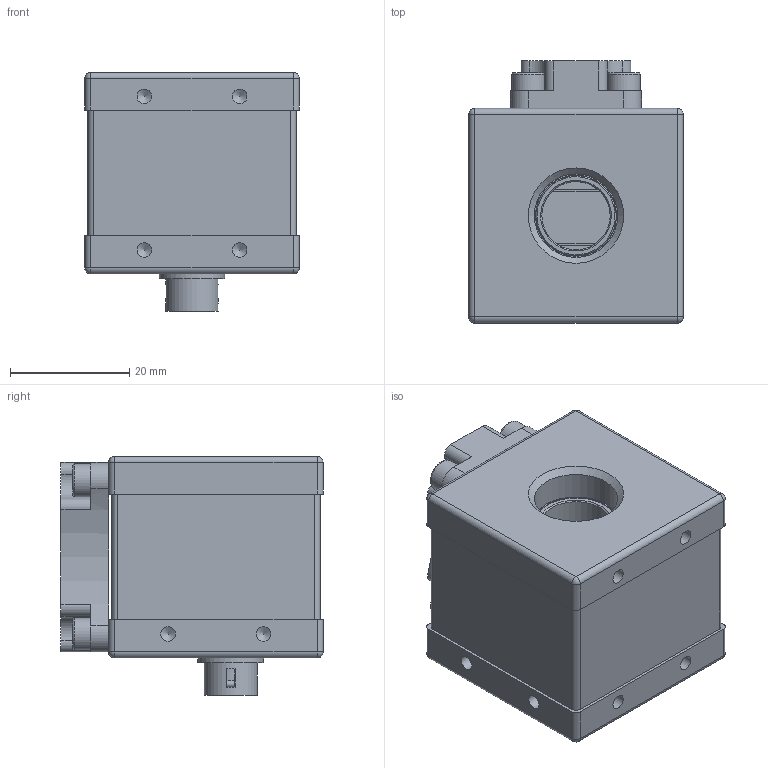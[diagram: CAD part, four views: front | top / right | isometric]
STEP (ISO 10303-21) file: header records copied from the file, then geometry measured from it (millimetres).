
FILE_DESCRIPTION(/* description */ (''),/* implementation_level */ '2;1');
FILE_NAME(/* name */ 'KSM_314-25-00-00-00-b_AFU-Kamera USB3 Vision.stp',/* time_stamp */ '2026-01-05T16:21:57+01:00',/* author */ ('Westermann'),/* organization */ ('TIS / Germany'),/* preprocessor_version */ 'ST-DEVELOPER v20',/* originating_system */ 'Autodesk Inventor 2025',/* authorisation */ '520025 mm^3');
FILE_SCHEMA (('AUTOMOTIVE_DESIGN { 1 0 10303 214 3 1 1 }'));
Products named in the file (4): KSM_314-25-00-00-00-b_AFU-Kamera USB3 Vision; 2_314-25-00-00-00-b_AFU-Kamera USB3 Vision; 314-25-00-00-05_TripodAdapter 16x25,8; ISO 4762 - M3 x 6 - 8.8
Assembly tree (6 placements, depth 2):
  KSM_314-25-00-00-00-b_AFU-Kamera USB3 Vision
    2_314-25-00-00-00-b_AFU-Kamera USB3 Vision
    314-25-00-00-05_TripodAdapter 16x25,8
    ISO 4762 - M3 x 6 - 8.8  x4
Bounding box: 36 x 44 x 40.1 mm (x, y, z)
Volume: 25486.6 mm3; surface area: 22464.7 mm2
Topology: 8 solids, 8 shells, 1690 faces, 4563 edges, 2965 vertices
Faces by surface type: plane 1063, cylinder 402, cone 123, bspline 70, torus 24, sphere 8
Full cylindrical faces by diameter (mm): 0.5 x2, 0.7 x4, 0.8 x6, 1 x1, 1.05 x2, 1.1 x4, 1.2 x2, 1.567 x6, 1.6 x2, 1.7 x2, 1.755 x4, 2 x4, 2.1 x4, 2.2 x4, 2.3 x4, 2.459 x12, 2.5 x2, 3 x9, 3.4 x4, 3.8 x4, 4.917 x1, 4.978 x1, 5 x2, 5.5 x4, 5.6 x1, 5.7 x1, 6.55 x1, 6.6 x1, 8 x1, 8.85 x1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
Entity records: 56276 total; most frequent: CARTESIAN_POINT 13012, ORIENTED_EDGE 8862, DIRECTION 8310, EDGE_CURVE 4431, LINE 3156, VECTOR 3156, VERTEX_POINT 2893, AXIS2_PLACEMENT_3D 2577
